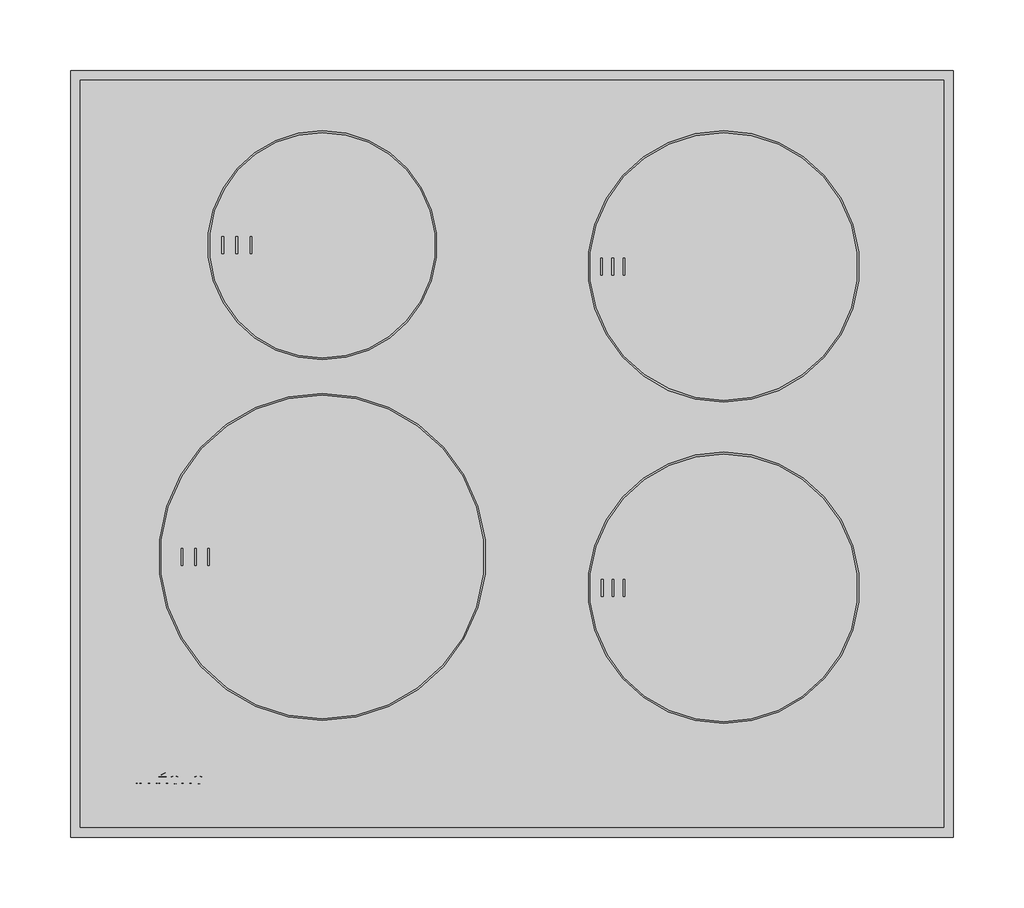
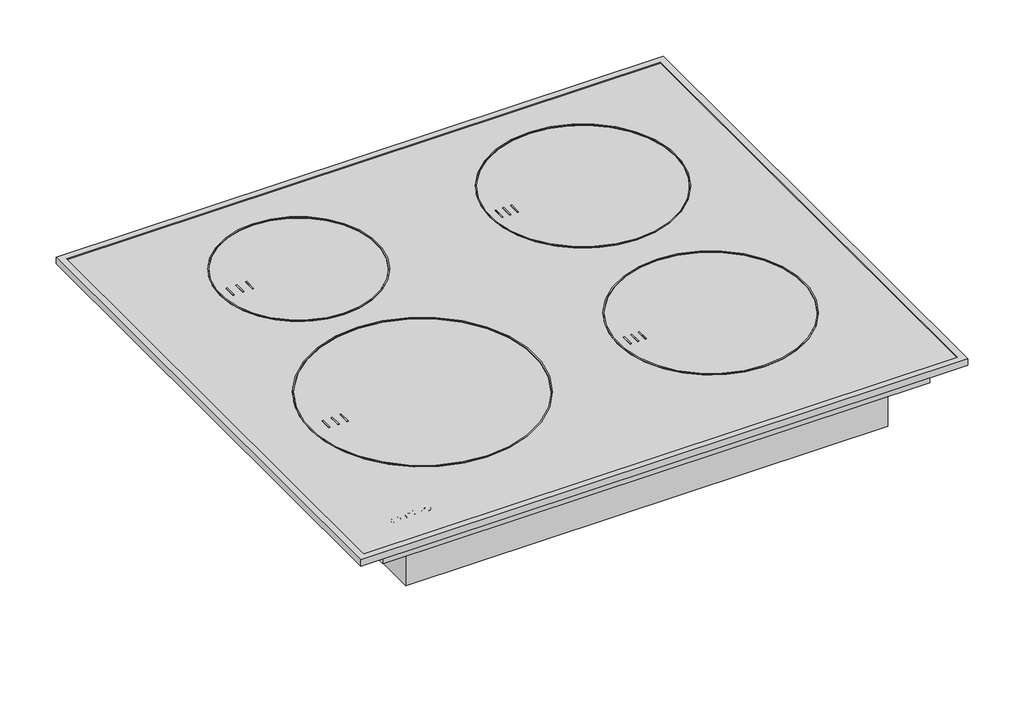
# Not in any storey: 1 proxy.
"""IFC4 building model written with IfcOpenShell, lengths in millimetres."""

from ifc_helpers import new_model, si_unit, origin, place, context, project, spatial, transform, mapped, element, save
from components import specialty_equipment_8e6997ad

model = new_model("IFC4")

# Units and contexts
model_context = context("Model", 3, world=origin())
ifc_project = project(units=[si_unit("LENGTHUNIT", "METRE", prefix="MILLI")], contexts=[model_context])

# Site, building
site = spatial("IfcSite", under=ifc_project)
building = spatial("IfcBuilding", under=site)

# Proxy
placement = place(None, origin())
specialty_equipment_shape = specialty_equipment_8e6997ad(model_context)
element("IfcBuildingElementProxy", 1, Name="12481660_USA_KM7020FR : 26702010_USA_12481660_KM7020FR", ObjectType="12481660_USA_KM7020FR : 26702010_USA_12481660_KM7020FR", at=placement, inside=building, context=model_context, shape_type="MappedRepresentation", body=[
    mapped(specialty_equipment_shape, transform((0.0, 0.0, 0.0), x_axis=(1.0, 0.0, 0.0), y_axis=(0.0, 1.0, 0.0), z_axis=(0.0, 0.0, 1.0))),
])

save(model, "model.ifc")
